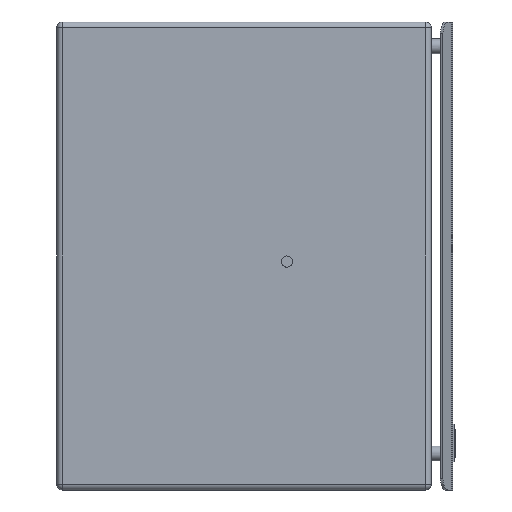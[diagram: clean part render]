
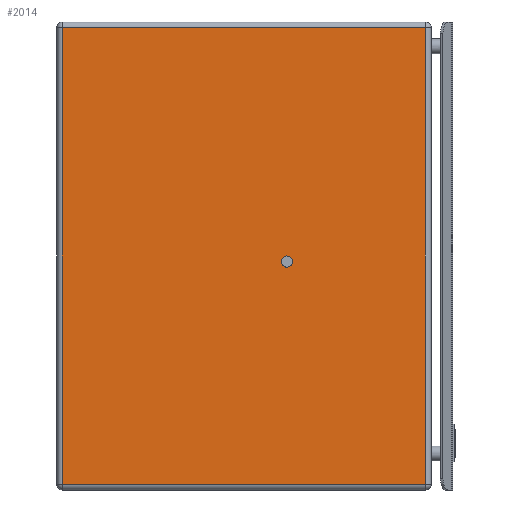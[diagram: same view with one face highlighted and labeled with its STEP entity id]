
A CAD part, left-side view. The second image highlights one B-rep face of the part: STEP entity #2014.
In plain terms, the highlighted planar face has unit normal (-1, 0, 0).
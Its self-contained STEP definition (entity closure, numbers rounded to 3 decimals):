
#90=FACE_BOUND('',#512,.T.);
#143=CIRCLE('',#2158,3.);
#365=FACE_OUTER_BOUND('',#511,.T.);
#511=EDGE_LOOP('',(#1714,#1715,#1716,#1717));
#512=EDGE_LOOP('',(#1718));
#628=LINE('',#3707,#756);
#637=LINE('',#3751,#765);
#640=LINE('',#3767,#768);
#641=LINE('',#3769,#769);
#756=VECTOR('',#2792,10.);
#765=VECTOR('',#2853,10.);
#768=VECTOR('',#2880,10.);
#769=VECTOR('',#2883,10.);
#872=VERTEX_POINT('',#3378);
#922=VERTEX_POINT('',#3704);
#923=VERTEX_POINT('',#3706);
#931=VERTEX_POINT('',#3748);
#932=VERTEX_POINT('',#3750);
#1086=EDGE_CURVE('',#872,#872,#143,.T.);
#1165=EDGE_CURVE('',#922,#923,#628,.T.);
#1187=EDGE_CURVE('',#931,#932,#637,.T.);
#1195=EDGE_CURVE('',#922,#932,#640,.T.);
#1196=EDGE_CURVE('',#923,#931,#641,.T.);
#1714=ORIENTED_EDGE('',*,*,#1165,.F.);
#1715=ORIENTED_EDGE('',*,*,#1195,.T.);
#1716=ORIENTED_EDGE('',*,*,#1187,.F.);
#1717=ORIENTED_EDGE('',*,*,#1196,.F.);
#1718=ORIENTED_EDGE('',*,*,#1086,.T.);
#1772=PLANE('',#2276);
#2014=ADVANCED_FACE('',(#365,#90),#1772,.T.);
#2158=AXIS2_PLACEMENT_3D('',#3379,#2610,#2611);
#2276=AXIS2_PLACEMENT_3D('',#3768,#2881,#2882);
#2610=DIRECTION('center_axis',(1.,0.,0.));
#2611=DIRECTION('ref_axis',(0.,0.,1.));
#2792=DIRECTION('',(0.,0.,1.));
#2853=DIRECTION('',(0.,0.,-1.));
#2880=DIRECTION('',(0.,-1.,0.));
#2881=DIRECTION('center_axis',(-1.,0.,0.));
#2882=DIRECTION('ref_axis',(0.,0.,-1.));
#2883=DIRECTION('',(0.,-1.,0.));
#3378=CARTESIAN_POINT('',(-70.,-123.,-6.));
#3379=CARTESIAN_POINT('Origin',(-70.,-123.,-3.));
#3704=CARTESIAN_POINT('',(-70.,-3.,-122.));
#3706=CARTESIAN_POINT('',(-70.,-3.,122.));
#3707=CARTESIAN_POINT('',(-70.,-3.,61.));
#3748=CARTESIAN_POINT('',(-70.,-197.,122.));
#3750=CARTESIAN_POINT('',(-70.,-197.,-122.));
#3751=CARTESIAN_POINT('',(-70.,-197.,61.));
#3767=CARTESIAN_POINT('',(-70.,0.,-122.));
#3768=CARTESIAN_POINT('Origin',(-70.,0.,122.));
#3769=CARTESIAN_POINT('',(-70.,0.,122.));
